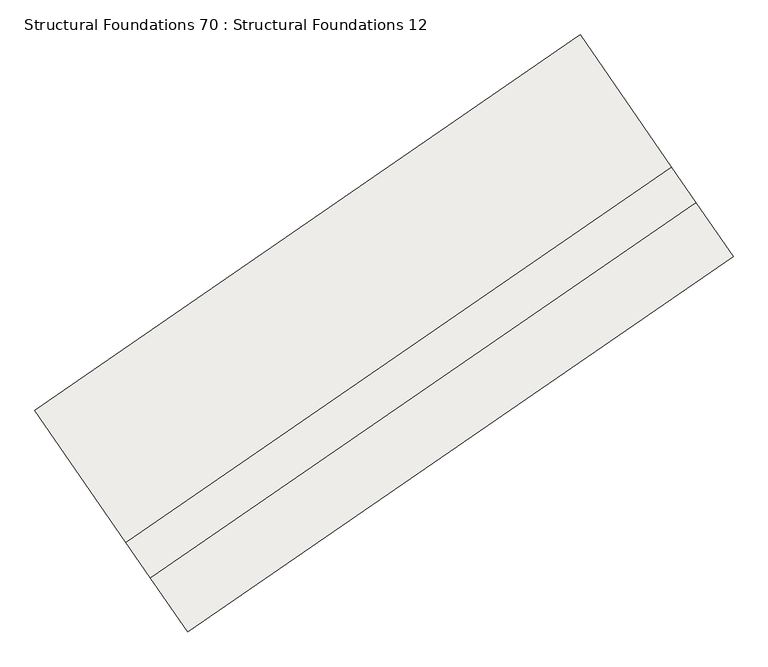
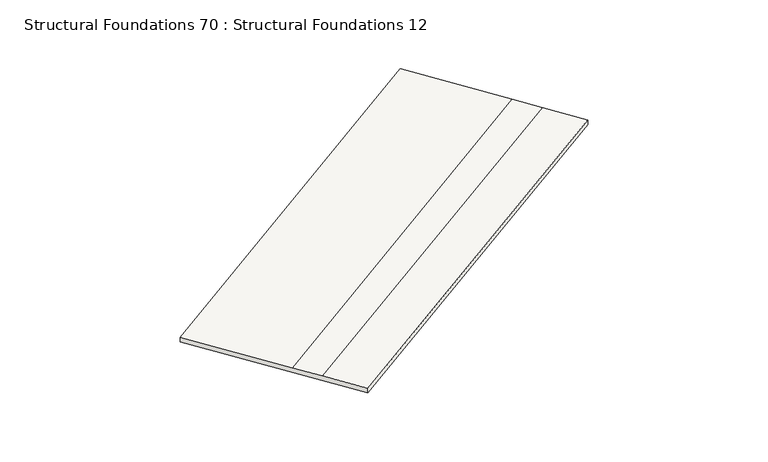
"""IFC4 building model written with IfcOpenShell, lengths in millimetres: slab geometry, Structural Foundations 70 : Structural Foundations 12."""

from ifc_helpers import new_model, si_unit, origin, place, context, project, spatial, faceted_brep, source, transform, mapped, element, save


def structural_foundations_70_structural_foundations_12_d5c97c81(model_context):
    return source(origin(), model_context, "Body", "Brep", [
        faceted_brep([(-288604.9139812, -403189.2020971, 634416.0000001), (-288094.3723671, -403930.381739, 634416.0), (-288094.3723671, -403930.381739, 634316.0), (-290193.265668, -400883.3098804, 634316.0000005), (-290193.265668, -400883.3098804, 634416.0000005), (-288942.4387141, -402699.2000019, 634416.0000002), (-296103.1813531, -408354.1814233, 634338.0000001), (-296440.706086, -407864.1793281, 634338.0000002), (-297691.5330399, -406048.2892066, 634338.0000005), (-297691.5330399, -406048.2892066, 634238.0000005), (-295592.639739, -409095.3610652, 634238.0), (-295592.639739, -409095.3610652, 634338.0)], [[[0, 1, 2, 3, 4, 5]], [[6, 7, 8, 9, 10, 11]], [[8, 7, 5, 4]], [[7, 6, 0, 5]], [[6, 11, 1, 0]], [[11, 10, 2, 1]], [[10, 9, 3, 2]], [[9, 8, 4, 3]]]),
    ])


if __name__ == "__main__":
    model = new_model("IFC4")
    model_context = context("Model", 3, world=origin())
    ifc_project = project(units=[si_unit("LENGTHUNIT", "METRE", prefix="MILLI")], contexts=[model_context])
    site = spatial("IfcSite", under=ifc_project)
    building = spatial("IfcBuilding", under=site)
    placement = place(None, origin())
    structural_foundations_70_structural_foundations_12_shape = structural_foundations_70_structural_foundations_12_d5c97c81(model_context)
    element("IfcSlab", 1, ObjectType="Structural Foundations 70 : Structural Foundations 12", at=placement, inside=building, context=model_context, shape_type="MappedRepresentation", body=[
        mapped(structural_foundations_70_structural_foundations_12_shape, transform((0.0, 0.0, 0.0), x_axis=(1.0, 0.0, 0.0), y_axis=(0.0, 1.0, 0.0), z_axis=(0.0, 0.0, 1.0))),
    ])
    save(model, "model.ifc")
